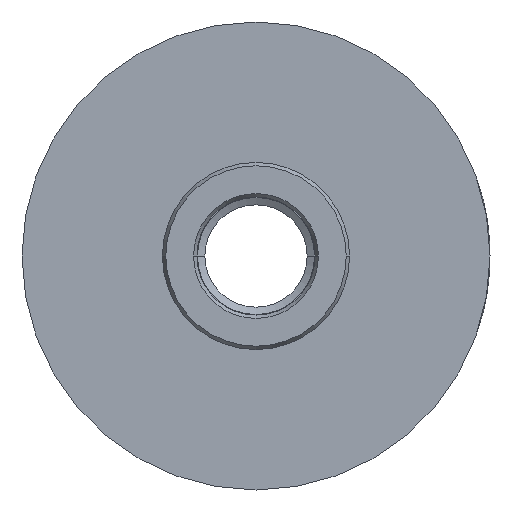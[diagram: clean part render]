
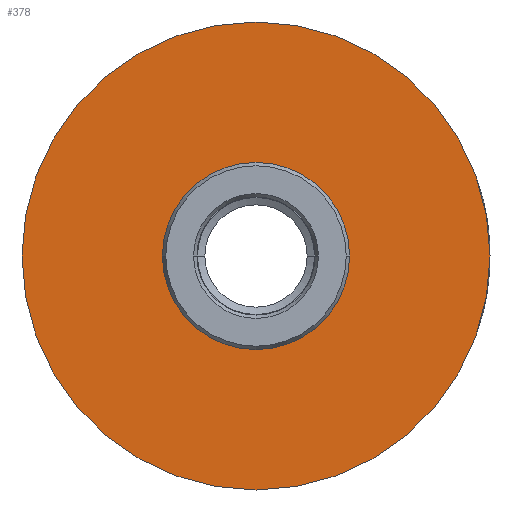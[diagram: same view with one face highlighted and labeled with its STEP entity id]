
A CAD part, front view. The second image highlights one B-rep face of the part: STEP entity #378.
In plain terms, the highlighted planar face has unit normal (0, -1, 0).
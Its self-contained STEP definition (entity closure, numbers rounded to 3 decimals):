
#129 = EDGE_CURVE ( 'NONE', #1945, #224, #1793, .T. ) ;
#135 = ORIENTED_EDGE ( 'NONE', *, *, #129, .F. ) ;
#148 = FACE_BOUND ( 'NONE', #2245, .T. ) ;
#162 = CARTESIAN_POINT ( 'NONE',  ( 0., 0., -40. ) ) ;
#224 = VERTEX_POINT ( 'NONE', #1992 ) ;
#230 = DIRECTION ( 'NONE',  ( 0., 0., 1. ) ) ;
#378 = ADVANCED_FACE ( 'NONE', ( #1885, #148 ), #1677, .F. ) ;
#409 = CARTESIAN_POINT ( 'NONE',  ( 0., 0., 0. ) ) ;
#415 = CARTESIAN_POINT ( 'NONE',  ( 16., 0., 0. ) ) ;
#422 = DIRECTION ( 'NONE',  ( 0., 1., 0. ) ) ;
#433 = VERTEX_POINT ( 'NONE', #1159 ) ;
#889 = AXIS2_PLACEMENT_3D ( 'NONE', #409, #1479, #230 ) ;
#911 = CARTESIAN_POINT ( 'NONE',  ( 0., 0., 0. ) ) ;
#987 = DIRECTION ( 'NONE',  ( 0., 1., 0. ) ) ;
#999 = EDGE_CURVE ( 'NONE', #2157, #433, #1533, .T. ) ;
#1002 = ORIENTED_EDGE ( 'NONE', *, *, #1334, .F. ) ;
#1023 = ORIENTED_EDGE ( 'NONE', *, *, #999, .T. ) ;
#1062 = DIRECTION ( 'NONE',  ( 0., 0., 1. ) ) ;
#1159 = CARTESIAN_POINT ( 'NONE',  ( 0., 0., -16. ) ) ;
#1174 = AXIS2_PLACEMENT_3D ( 'NONE', #415, #422, #1497 ) ;
#1196 = CIRCLE ( 'NONE', #2149, 40. ) ;
#1226 = ORIENTED_EDGE ( 'NONE', *, *, #1298, .T. ) ;
#1268 = DIRECTION ( 'NONE',  ( 0., 1., 0. ) ) ;
#1275 = CARTESIAN_POINT ( 'NONE',  ( 0., 0., 0. ) ) ;
#1298 = EDGE_CURVE ( 'NONE', #433, #2157, #2081, .T. ) ;
#1334 = EDGE_CURVE ( 'NONE', #224, #1945, #1196, .T. ) ;
#1401 = DIRECTION ( 'NONE',  ( 0., 0., 1. ) ) ;
#1441 = AXIS2_PLACEMENT_3D ( 'NONE', #2169, #2175, #2181 ) ;
#1479 = DIRECTION ( 'NONE',  ( 0., 1., 0. ) ) ;
#1497 = DIRECTION ( 'NONE',  ( 0., 0., 1. ) ) ;
#1533 = CIRCLE ( 'NONE', #1845, 16. ) ;
#1677 = PLANE ( 'NONE',  #1174 ) ;
#1793 = CIRCLE ( 'NONE', #889, 40. ) ;
#1845 = AXIS2_PLACEMENT_3D ( 'NONE', #1275, #1268, #1401 ) ;
#1885 = FACE_OUTER_BOUND ( 'NONE', #1912, .T. ) ;
#1912 = EDGE_LOOP ( 'NONE', ( #1002, #135 ) ) ;
#1945 = VERTEX_POINT ( 'NONE', #162 ) ;
#1992 = CARTESIAN_POINT ( 'NONE',  ( 0., 0., 40. ) ) ;
#2081 = CIRCLE ( 'NONE', #1441, 16. ) ;
#2149 = AXIS2_PLACEMENT_3D ( 'NONE', #911, #987, #1062 ) ;
#2157 = VERTEX_POINT ( 'NONE', #2238 ) ;
#2169 = CARTESIAN_POINT ( 'NONE',  ( 0., 0., 0. ) ) ;
#2175 = DIRECTION ( 'NONE',  ( 0., 1., 0. ) ) ;
#2181 = DIRECTION ( 'NONE',  ( 0., 0., 1. ) ) ;
#2238 = CARTESIAN_POINT ( 'NONE',  ( 0., 0., 16. ) ) ;
#2245 = EDGE_LOOP ( 'NONE', ( #1023, #1226 ) ) ;
